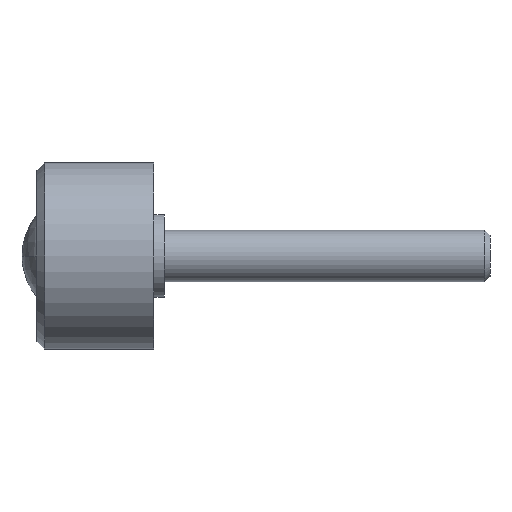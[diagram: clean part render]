
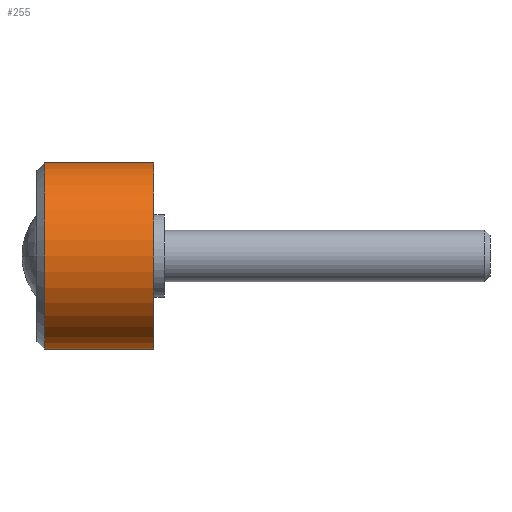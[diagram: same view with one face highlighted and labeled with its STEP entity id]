
A CAD part, left-side view. The second image highlights one B-rep face of the part: STEP entity #255.
In plain terms, the highlighted cylindrical face has radius 18 mm (diameter 36 mm), a partial arc.
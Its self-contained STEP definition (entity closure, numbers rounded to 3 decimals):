
#5 = VECTOR ( 'NONE', #312, 1000. ) ;
#6 = CARTESIAN_POINT ( 'NONE',  ( 0., 21.1, -18. ) ) ;
#9 = CARTESIAN_POINT ( 'NONE',  ( 0., 0., 18. ) ) ;
#12 = CIRCLE ( 'NONE', #446, 18. ) ;
#27 = VECTOR ( 'NONE', #223, 1000. ) ;
#29 = CARTESIAN_POINT ( 'NONE',  ( 0., 21.1, 0. ) ) ;
#32 = EDGE_CURVE ( 'NONE', #72, #176, #104, .T. ) ;
#68 = EDGE_CURVE ( 'NONE', #168, #176, #496, .T. ) ;
#72 = VERTEX_POINT ( 'NONE', #587 ) ;
#78 = ORIENTED_EDGE ( 'NONE', *, *, #32, .F. ) ;
#93 = DIRECTION ( 'NONE',  ( 0., -1., 0. ) ) ;
#104 = CIRCLE ( 'NONE', #700, 18. ) ;
#127 = EDGE_CURVE ( 'NONE', #241, #72, #653, .T. ) ;
#140 = DIRECTION ( 'NONE',  ( 0., -1., 0. ) ) ;
#143 = CARTESIAN_POINT ( 'NONE',  ( 0., 21.1, 18. ) ) ;
#168 = VERTEX_POINT ( 'NONE', #6 ) ;
#176 = VERTEX_POINT ( 'NONE', #472 ) ;
#202 = DIRECTION ( 'NONE',  ( 0., -1., 0. ) ) ;
#223 = DIRECTION ( 'NONE',  ( 0., -1., 0. ) ) ;
#241 = VERTEX_POINT ( 'NONE', #143 ) ;
#255 = ADVANCED_FACE ( 'NONE', ( #267 ), #740, .T. ) ;
#267 = FACE_OUTER_BOUND ( 'NONE', #741, .T. ) ;
#269 = AXIS2_PLACEMENT_3D ( 'NONE', #611, #202, #380 ) ;
#312 = DIRECTION ( 'NONE',  ( 0., -1., 0. ) ) ;
#380 = DIRECTION ( 'NONE',  ( 0., 0., -1. ) ) ;
#433 = CARTESIAN_POINT ( 'NONE',  ( 0., 0., 0. ) ) ;
#446 = AXIS2_PLACEMENT_3D ( 'NONE', #29, #140, #667 ) ;
#472 = CARTESIAN_POINT ( 'NONE',  ( 0., 0., -18. ) ) ;
#496 = LINE ( 'NONE', #690, #27 ) ;
#504 = ORIENTED_EDGE ( 'NONE', *, *, #757, .T. ) ;
#563 = DIRECTION ( 'NONE',  ( 0., 0., -1. ) ) ;
#587 = CARTESIAN_POINT ( 'NONE',  ( 0., 0., 18. ) ) ;
#592 = ORIENTED_EDGE ( 'NONE', *, *, #68, .T. ) ;
#611 = CARTESIAN_POINT ( 'NONE',  ( 0., 0., 0. ) ) ;
#653 = LINE ( 'NONE', #9, #5 ) ;
#667 = DIRECTION ( 'NONE',  ( 0., 0., 1. ) ) ;
#690 = CARTESIAN_POINT ( 'NONE',  ( 0., 0., -18. ) ) ;
#700 = AXIS2_PLACEMENT_3D ( 'NONE', #433, #93, #563 ) ;
#740 = CYLINDRICAL_SURFACE ( 'NONE', #269, 18. ) ;
#741 = EDGE_LOOP ( 'NONE', ( #760, #504, #592, #78 ) ) ;
#757 = EDGE_CURVE ( 'NONE', #241, #168, #12, .T. ) ;
#760 = ORIENTED_EDGE ( 'NONE', *, *, #127, .F. ) ;
